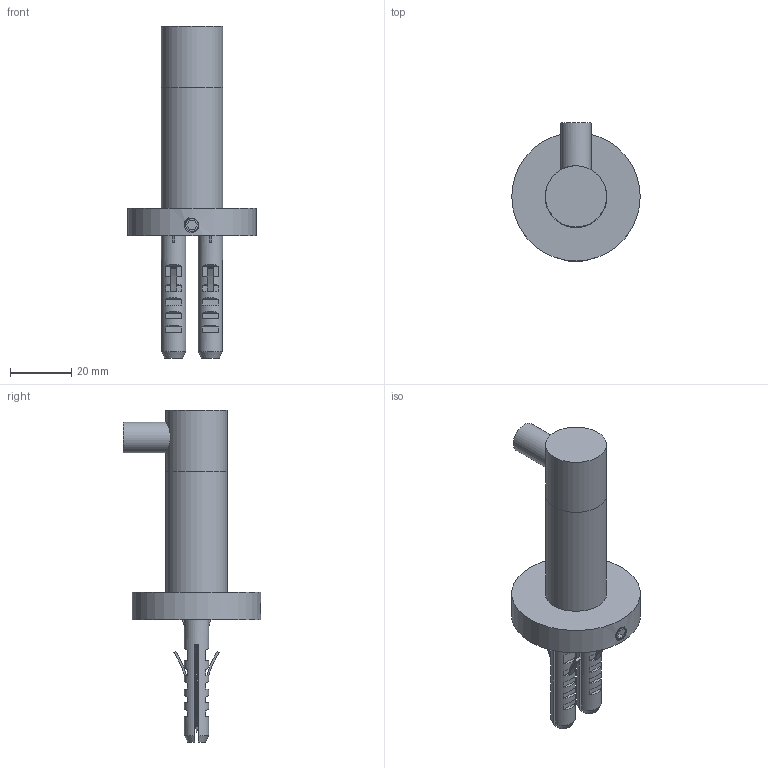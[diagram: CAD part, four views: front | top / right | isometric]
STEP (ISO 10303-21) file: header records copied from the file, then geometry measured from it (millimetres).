
FILE_DESCRIPTION(/* description */ (''),/* implementation_level */ '2;1');
FILE_NAME(/* name */ 'c:\worker\convert-fusion-oct-2018\tmp\job-1\11\output\files\a3ea8fbc-00ce-41a5-83a2-594d4543c958\d46ed6d5-3ee5-4c32-94b9-64e653be5b2f.zip.stp',/* time_stamp */ '2018-10-22T13:44:49+00:00',/* author */ (''),/* organization */ (''),/* preprocessor_version */ 'ST-DEVELOPER v17.2',/* originating_system */ 'Autodesk Translation Framework v7.6.0.251',/* authorisation */ '');
FILE_SCHEMA (('AUTOMOTIVE_DESIGN { 1 0 10303 214 3 1 1 }'));
Products named in the file (1): !MP60110
Bounding box: 42 x 45 x 108.5 mm (x, y, z)
Volume: 16363 mm3; surface area: 23446.1 mm2
Topology: 12 solids, 12 shells, 516 faces, 1380 edges, 910 vertices
Faces by surface type: plane 189, cylinder 183, bspline 100, cone 38, torus 6
Full cylindrical faces by diameter (mm): 3.8 x62, 4.2 x7, 5 x67, 5.126 x2, 5.2 x1, 6 x1, 7 x1, 7.5 x2, 8 x2, 10 x1, 10.2 x1, 16 x1, 18.2 x1, 18.8 x1, 20 x2, 20.2 x1, 42 x1
Entity records: 57476 total; most frequent: CARTESIAN_POINT 45629, ORIENTED_EDGE 2752, DIRECTION 1942, EDGE_CURVE 1376, VERTEX_POINT 911, AXIS2_PLACEMENT_3D 666, LINE 610, VECTOR 610
